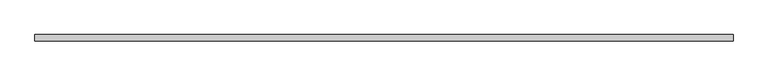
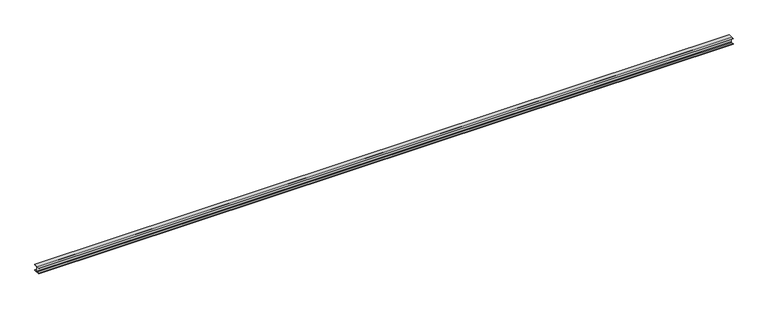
"""IFC4 building model written with IfcOpenShell, lengths in millimetres: beam geometry, Membrure Haute 27272 : Membrure Haute 27272."""

from ifc_helpers import new_model, si_unit, frame, origin, place, context, project, spatial, polyline, outline, extrude, source, transform, mapped, element, save


def beam_c2cc9b1c(model_context):
    return source(origin(), model_context, "Body", "SweptSolid", [
        extrude(outline(polyline([(-12730.0, 7401.5), (-12785.25, 7401.5), (-12797.25, 7389.5), (-12797.25, 7297.5), (-12785.25, 7285.5), (-12730.0, 7285.5), (-12730.0, 7277.0), (-12870.0, 7277.0), (-12870.0, 7285.5), (-12814.75, 7285.5), (-12802.75, 7297.5), (-12802.75, 7389.5), (-12814.75, 7401.5), (-12870.0, 7401.5), (-12870.0, 7410.0), (-12730.0, 7410.0), (-12730.0, 7401.5)])), frame((179.9999999, 0.0, 0.0), z_axis=(1.0, 0.0, 0.0), x_axis=(0.0, 1.0, 0.0)), (0.0, 0.0, 1.0), 15210.0),
    ])


if __name__ == "__main__":
    model = new_model("IFC4")
    model_context = context("Model", 3, world=origin())
    ifc_project = project(units=[si_unit("LENGTHUNIT", "METRE", prefix="MILLI")], contexts=[model_context])
    site = spatial("IfcSite", under=ifc_project)
    building = spatial("IfcBuilding", under=site)
    placement = place(None, origin())
    beam_shape = beam_c2cc9b1c(model_context)
    element("IfcBeam", 1, ObjectType="Membrure Haute 27272 : Membrure Haute 27272", at=placement, inside=building, context=model_context, shape_type="MappedRepresentation", body=[
        mapped(beam_shape, transform((0.0, 0.0, 0.0), x_axis=(1.0, 0.0, 0.0), y_axis=(0.0, 1.0, 0.0), z_axis=(0.0, 0.0, 1.0))),
    ])
    save(model, "model.ifc")
